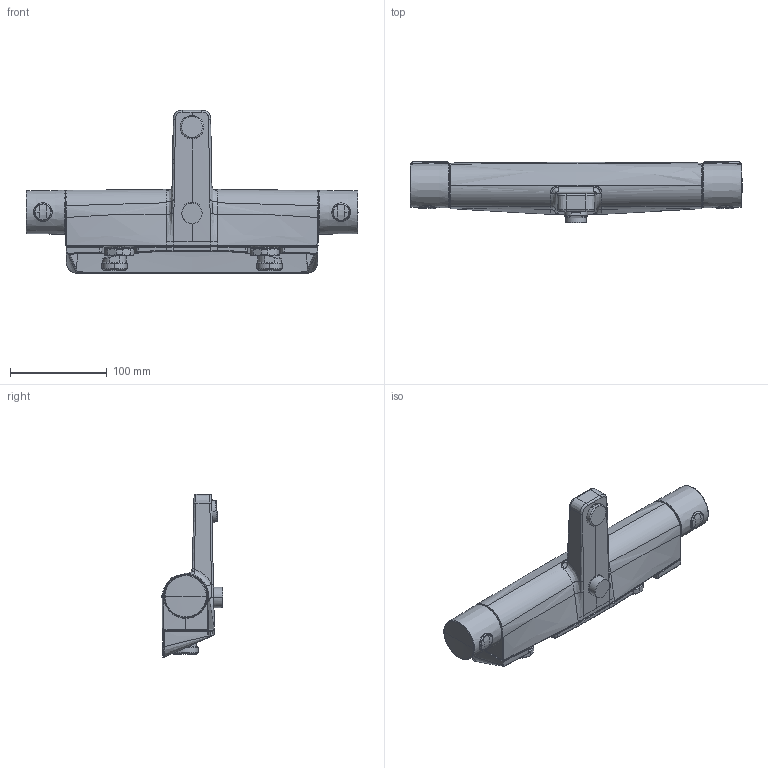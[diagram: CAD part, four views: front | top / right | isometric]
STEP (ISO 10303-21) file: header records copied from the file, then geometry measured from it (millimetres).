
FILE_DESCRIPTION (( 'STEP AP203' ), '1' );
FILE_NAME ('7154N(2023)+7154N-33(2023).STEP', '2022-12-21T09:52:33', ( '' ), ( '' ), 'SwSTEP 2.0', 'SolidWorks 2016', '' );
FILE_SCHEMA (( 'CONFIG_CONTROL_DESIGN' ));
Length unit declared in the file: millimetre
Products named in the file (1): 7154N(2023)+7154N-33(2023)
Bounding box: 342.5 x 63.41 x 168.22 mm (x, y, z)
Surface area: 130200.2 mm2 (no closed solid volume)
Topology: 0 solids, 2 shells, 659 faces, 1648 edges, 996 vertices
Faces by surface type: bspline 390, cylinder 116, plane 77, cone 70, sphere 4, torus 2
Entity records: 48586 total; most frequent: CARTESIAN_POINT 35952, ORIENTED_EDGE 3260, DIRECTION 1700, EDGE_CURVE 1632, VERTEX_POINT 996, B_SPLINE_CURVE_WITH_KNOTS 841, AXIS2_PLACEMENT_3D 714, EDGE_LOOP 684
